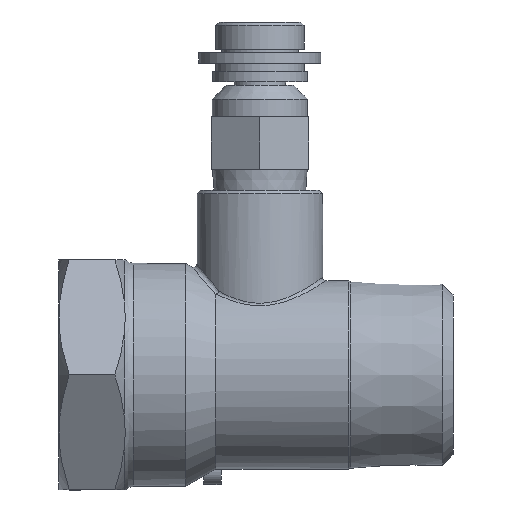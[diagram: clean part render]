
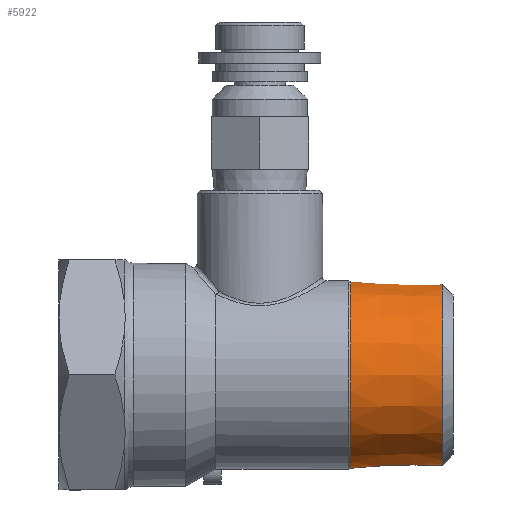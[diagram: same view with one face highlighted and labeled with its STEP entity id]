
A CAD part, left-side view. The second image highlights one B-rep face of the part: STEP entity #5922.
In plain terms, the highlighted conical face has half-angle 1.79 degrees and reference radius 13.176 mm.
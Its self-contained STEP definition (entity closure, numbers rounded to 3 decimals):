
#5888=CARTESIAN_POINT('',(-12.97,1.5,0.0));
#5889=VERTEX_POINT('',#5888);
#5890=CARTESIAN_POINT('',(0.0,1.5,0.0));
#5891=DIRECTION('',(0.0,1.0,0.0));
#5892=DIRECTION('',(-1.0,0.0,0.0));
#5893=AXIS2_PLACEMENT_3D('',#5890,#5891,#5892);
#5894=CIRCLE('',#5893,12.97);
#5895=EDGE_CURVE('',#5889,#5889,#5894,.T.);
#5903=CARTESIAN_POINT('',(0.0,8.096,0.0));
#5904=DIRECTION('',(0.0,1.0,0.0));
#5905=DIRECTION('',(-1.0,0.0,0.0));
#5906=AXIS2_PLACEMENT_3D('',#5903,#5904,#5905);
#5907=CONICAL_SURFACE('',#5906,13.176,1.79);
#5908=CARTESIAN_POINT('',(-13.382,14.693,0.0));
#5909=VERTEX_POINT('',#5908);
#5910=CARTESIAN_POINT('',(0.0,14.693,0.0));
#5911=DIRECTION('',(0.0,1.0,0.0));
#5912=DIRECTION('',(-1.0,0.0,0.0));
#5913=AXIS2_PLACEMENT_3D('',#5910,#5911,#5912);
#5914=CIRCLE('',#5913,13.382);
#5915=EDGE_CURVE('',#5909,#5909,#5914,.T.);
#5916=ORIENTED_EDGE('',*,*,#5915,.F.);
#5917=EDGE_LOOP('',(#5916));
#5918=FACE_OUTER_BOUND('',#5917,.T.);
#5919=ORIENTED_EDGE('',*,*,#5895,.T.);
#5920=EDGE_LOOP('',(#5919));
#5921=FACE_BOUND('',#5920,.T.);
#5922=ADVANCED_FACE('',(#5918,#5921),#5907,.T.);
